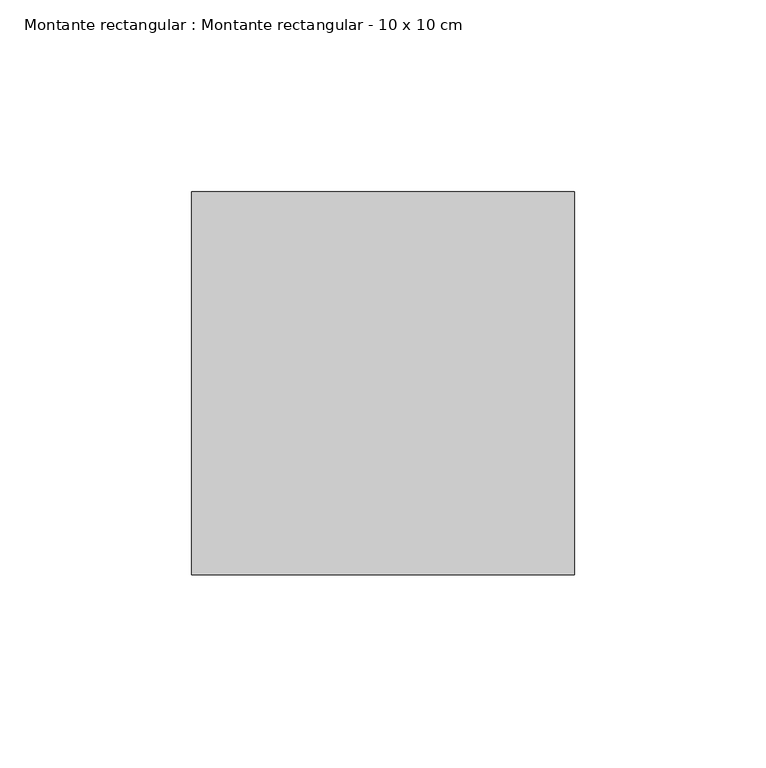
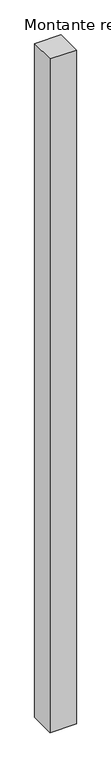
"""IFC4 building model written with IfcOpenShell, lengths in millimetres: member geometry, Montante rectangular : Montante rectangular - 10 x 10 cm."""

from ifc_helpers import new_model, si_unit, frame, origin, place, context, project, spatial, polyline, outline, extrude, source, transform, mapped, element, save


def montante_rectangular_montante_rectangular_10_x_10_cm_0e383af4(model_context):
    return source(origin(), model_context, "Body", "SweptSolid", [
        extrude(outline(polyline([(-100.0, 50.0), (0.0, 50.0), (0.0, -50.0), (-100.0, -50.0), (-100.0, 50.0)])), frame((0.0, 0.0, -2700.0), z_axis=(0.0, 0.0, 1.0), x_axis=(1.0, 0.0, 0.0)), (0.0, 0.0, 1.0), 2700.0),
    ])


if __name__ == "__main__":
    model = new_model("IFC4")
    model_context = context("Model", 3, world=origin())
    ifc_project = project(units=[si_unit("LENGTHUNIT", "METRE", prefix="MILLI")], contexts=[model_context])
    site = spatial("IfcSite", under=ifc_project)
    building = spatial("IfcBuilding", under=site)
    placement = place(None, origin())
    montante_rectangular_montante_rectangular_10_x_10_cm_shape = montante_rectangular_montante_rectangular_10_x_10_cm_0e383af4(model_context)
    element("IfcMember", 1, ObjectType="Montante rectangular : Montante rectangular - 10 x 10 cm", at=placement, inside=building, context=model_context, shape_type="MappedRepresentation", body=[
        mapped(montante_rectangular_montante_rectangular_10_x_10_cm_shape, transform((0.0, 0.0, 0.0), x_axis=(1.0, 0.0, 0.0), y_axis=(0.0, 1.0, 0.0), z_axis=(0.0, 0.0, 1.0))),
    ])
    save(model, "model.ifc")
